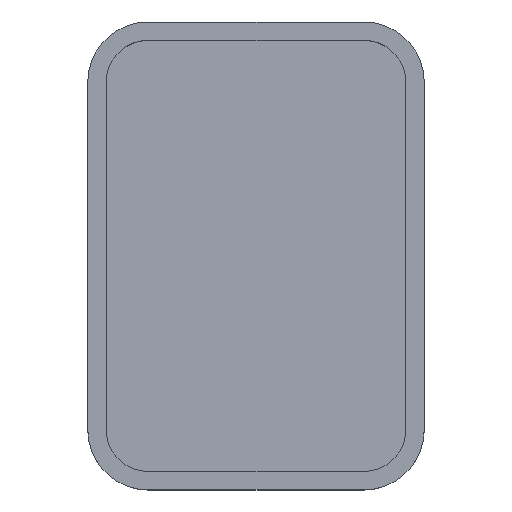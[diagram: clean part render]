
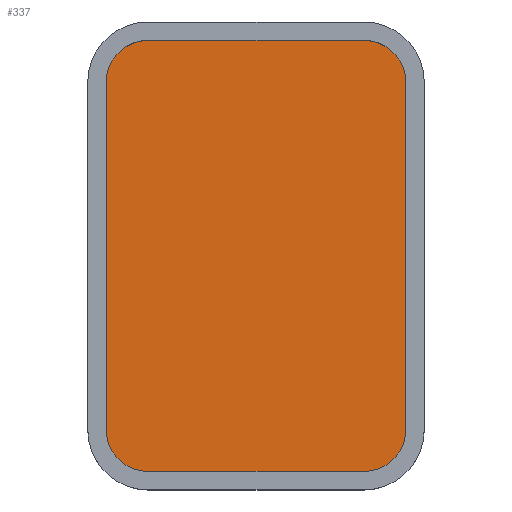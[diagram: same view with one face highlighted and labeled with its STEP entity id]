
A CAD part, top view. The second image highlights one B-rep face of the part: STEP entity #337.
In plain terms, the highlighted planar face has unit normal (0, 0, 1).
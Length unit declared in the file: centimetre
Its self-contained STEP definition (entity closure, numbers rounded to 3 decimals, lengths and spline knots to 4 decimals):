
#24=CIRCLE('',#382,0.3621);
#25=CIRCLE('',#383,0.3621);
#26=CIRCLE('',#384,0.3621);
#27=CIRCLE('',#385,0.3621);
#92=ORIENTED_EDGE('',*,*,#164,.T.);
#93=ORIENTED_EDGE('',*,*,#165,.T.);
#94=ORIENTED_EDGE('',*,*,#166,.F.);
#95=ORIENTED_EDGE('',*,*,#167,.T.);
#96=ORIENTED_EDGE('',*,*,#168,.F.);
#97=ORIENTED_EDGE('',*,*,#169,.T.);
#98=ORIENTED_EDGE('',*,*,#170,.T.);
#99=ORIENTED_EDGE('',*,*,#171,.T.);
#164=EDGE_CURVE('',#204,#205,#232,.T.);
#165=EDGE_CURVE('',#205,#206,#24,.T.);
#166=EDGE_CURVE('',#207,#206,#233,.T.);
#167=EDGE_CURVE('',#207,#208,#25,.T.);
#168=EDGE_CURVE('',#209,#208,#234,.T.);
#169=EDGE_CURVE('',#209,#210,#26,.T.);
#170=EDGE_CURVE('',#210,#211,#235,.T.);
#171=EDGE_CURVE('',#211,#204,#27,.T.);
#204=VERTEX_POINT('',#567);
#205=VERTEX_POINT('',#568);
#206=VERTEX_POINT('',#570);
#207=VERTEX_POINT('',#572);
#208=VERTEX_POINT('',#574);
#209=VERTEX_POINT('',#576);
#210=VERTEX_POINT('',#578);
#211=VERTEX_POINT('',#580);
#232=LINE('',#566,#264);
#233=LINE('',#571,#265);
#234=LINE('',#575,#266);
#235=LINE('',#579,#267);
#264=VECTOR('',#462,100.);
#265=VECTOR('',#465,100.);
#266=VECTOR('',#468,100.);
#267=VECTOR('',#471,100.);
#287=EDGE_LOOP('',(#92,#93,#94,#95,#96,#97,#98,#99));
#307=FACE_BOUND('',#287,.T.);
#322=PLANE('',#381);
#337=ADVANCED_FACE('',(#307),#322,.T.);
#381=AXIS2_PLACEMENT_3D('',#565,#460,#461);
#382=AXIS2_PLACEMENT_3D('',#569,#463,#464);
#383=AXIS2_PLACEMENT_3D('',#573,#466,#467);
#384=AXIS2_PLACEMENT_3D('',#577,#469,#470);
#385=AXIS2_PLACEMENT_3D('',#581,#472,#473);
#460=DIRECTION('',(0.,0.,1.));
#461=DIRECTION('',(1.,0.,0.));
#462=DIRECTION('',(1.,0.,0.));
#463=DIRECTION('',(0.,0.,1.));
#464=DIRECTION('',(1.,0.,0.));
#465=DIRECTION('',(0.,-1.,0.));
#466=DIRECTION('',(0.,0.,1.));
#467=DIRECTION('',(1.,0.,0.));
#468=DIRECTION('',(1.,0.,0.));
#469=DIRECTION('',(0.,0.,1.));
#470=DIRECTION('',(1.,0.,0.));
#471=DIRECTION('',(0.,-1.,0.));
#472=DIRECTION('',(0.,0.,1.));
#473=DIRECTION('',(1.,0.,0.));
#565=CARTESIAN_POINT('',(0.0005,0.6472,-0.62));
#566=CARTESIAN_POINT('',(0.0005,-1.2256,-0.62));
#567=CARTESIAN_POINT('',(-0.939,-1.2256,-0.62));
#568=CARTESIAN_POINT('',(0.94,-1.2256,-0.62));
#569=CARTESIAN_POINT('',(0.94,-0.8635,-0.62));
#570=CARTESIAN_POINT('',(1.3021,-0.8635,-0.62));
#571=CARTESIAN_POINT('',(1.3021,0.6472,-0.62));
#572=CARTESIAN_POINT('',(1.3021,2.1579,-0.62));
#573=CARTESIAN_POINT('',(0.94,2.1579,-0.62));
#574=CARTESIAN_POINT('',(0.94,2.5201,-0.62));
#575=CARTESIAN_POINT('',(0.0005,2.5201,-0.62));
#576=CARTESIAN_POINT('',(-0.939,2.5201,-0.62));
#577=CARTESIAN_POINT('',(-0.939,2.1579,-0.62));
#578=CARTESIAN_POINT('',(-1.3011,2.1579,-0.62));
#579=CARTESIAN_POINT('',(-1.3011,0.6472,-0.62));
#580=CARTESIAN_POINT('',(-1.3011,-0.8635,-0.62));
#581=CARTESIAN_POINT('',(-0.939,-0.8635,-0.62));
